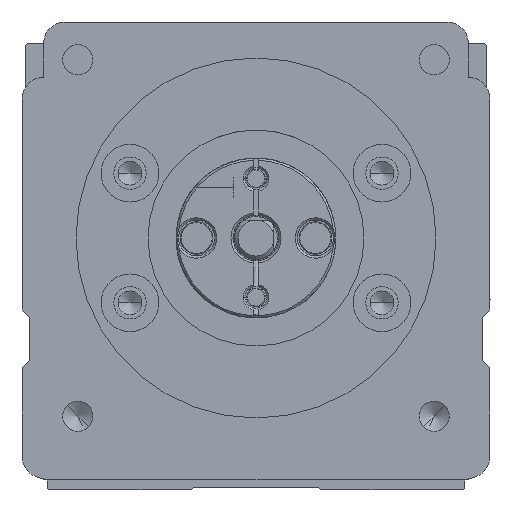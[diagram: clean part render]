
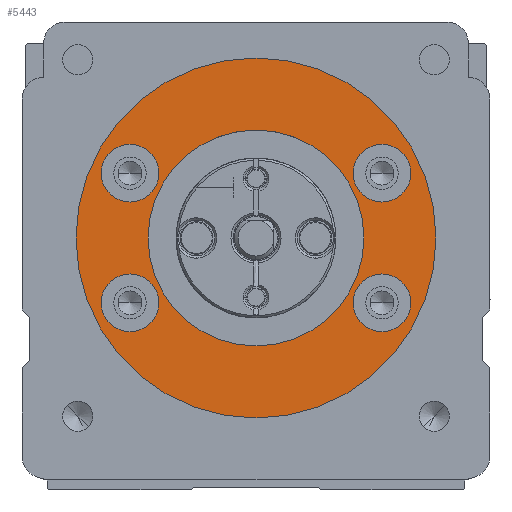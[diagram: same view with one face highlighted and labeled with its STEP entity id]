
A CAD part, front view. The second image highlights one B-rep face of the part: STEP entity #5443.
In plain terms, the highlighted planar face has unit normal (0, -1, 0).
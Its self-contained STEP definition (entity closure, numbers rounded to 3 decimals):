
#5443=ADVANCED_FACE('',(#11641,#11642,#11643,#11644,#11645,#11646),#11647,.F.);
#11641=FACE_BOUND('',#19823,.T.);
#11642=FACE_BOUND('',#19824,.T.);
#11643=FACE_BOUND('',#19825,.T.);
#11644=FACE_BOUND('',#19826,.T.);
#11645=FACE_BOUND('',#19827,.T.);
#11646=FACE_OUTER_BOUND('',#19828,.T.);
#11647=PLANE('',#19829);
#19823=EDGE_LOOP('',(#34621,#34622));
#19824=EDGE_LOOP('',(#34623,#34624));
#19825=EDGE_LOOP('',(#34625,#34626));
#19826=EDGE_LOOP('',(#34627,#34628));
#19827=EDGE_LOOP('',(#34629,#34630));
#19828=EDGE_LOOP('',(#34631,#34632));
#19829=AXIS2_PLACEMENT_3D('',#34633,#34634,#34635);
#34621=ORIENTED_EDGE('',*,*,#49627,.T.);
#34622=ORIENTED_EDGE('',*,*,#49628,.T.);
#34623=ORIENTED_EDGE('',*,*,#49629,.T.);
#34624=ORIENTED_EDGE('',*,*,#49630,.T.);
#34625=ORIENTED_EDGE('',*,*,#49631,.T.);
#34626=ORIENTED_EDGE('',*,*,#49632,.T.);
#34627=ORIENTED_EDGE('',*,*,#49633,.T.);
#34628=ORIENTED_EDGE('',*,*,#49634,.T.);
#34629=ORIENTED_EDGE('',*,*,#49635,.T.);
#34630=ORIENTED_EDGE('',*,*,#49636,.T.);
#34631=ORIENTED_EDGE('',*,*,#49637,.T.);
#34632=ORIENTED_EDGE('',*,*,#49638,.T.);
#34633=CARTESIAN_POINT('',(300.,165.0,0.));
#34634=DIRECTION('',(0.,1.0,0.));
#34635=DIRECTION('',(1.0,0.,0.));
#49627=EDGE_CURVE('',#60842,#60843,#60844,.T.);
#49628=EDGE_CURVE('',#60843,#60842,#60845,.T.);
#49629=EDGE_CURVE('',#60846,#60847,#60848,.T.);
#49630=EDGE_CURVE('',#60847,#60846,#60849,.T.);
#49631=EDGE_CURVE('',#60850,#60851,#60852,.T.);
#49632=EDGE_CURVE('',#60851,#60850,#60853,.T.);
#49633=EDGE_CURVE('',#60854,#60855,#60856,.T.);
#49634=EDGE_CURVE('',#60855,#60854,#60857,.T.);
#49635=EDGE_CURVE('',#60858,#60859,#60860,.T.);
#49636=EDGE_CURVE('',#60859,#60858,#60861,.T.);
#49637=EDGE_CURVE('',#60862,#60863,#60864,.T.);
#49638=EDGE_CURVE('',#60863,#60862,#60865,.T.);
#60842=VERTEX_POINT('',#76627);
#60843=VERTEX_POINT('',#76628);
#60844=CIRCLE('',#76629,4.0);
#60845=CIRCLE('',#76630,4.0);
#60846=VERTEX_POINT('',#76631);
#60847=VERTEX_POINT('',#76632);
#60848=CIRCLE('',#76633,4.0);
#60849=CIRCLE('',#76634,4.0);
#60850=VERTEX_POINT('',#76635);
#60851=VERTEX_POINT('',#76636);
#60852=CIRCLE('',#76637,4.0);
#60853=CIRCLE('',#76638,4.0);
#60854=VERTEX_POINT('',#76639);
#60855=VERTEX_POINT('',#76640);
#60856=CIRCLE('',#76641,4.0);
#60857=CIRCLE('',#76642,4.0);
#60858=VERTEX_POINT('',#76643);
#60859=VERTEX_POINT('',#76644);
#60860=CIRCLE('',#76645,15.0);
#60861=CIRCLE('',#76646,15.0);
#60862=VERTEX_POINT('',#76647);
#60863=VERTEX_POINT('',#76648);
#60864=CIRCLE('',#76649,25.0);
#60865=CIRCLE('',#76650,25.0);
#76627=CARTESIAN_POINT('',(286.5,165.0,-9.));
#76628=CARTESIAN_POINT('',(278.5,165.0,-9.));
#76629=AXIS2_PLACEMENT_3D('',#88500,#88501,#88502);
#76630=AXIS2_PLACEMENT_3D('',#88503,#88504,#88505);
#76631=CARTESIAN_POINT('',(321.5,165.0,-9.));
#76632=CARTESIAN_POINT('',(313.5,165.0,-9.));
#76633=AXIS2_PLACEMENT_3D('',#88506,#88507,#88508);
#76634=AXIS2_PLACEMENT_3D('',#88509,#88510,#88511);
#76635=CARTESIAN_POINT('',(286.5,165.0,9.));
#76636=CARTESIAN_POINT('',(278.5,165.0,9.));
#76637=AXIS2_PLACEMENT_3D('',#88512,#88513,#88514);
#76638=AXIS2_PLACEMENT_3D('',#88515,#88516,#88517);
#76639=CARTESIAN_POINT('',(321.5,165.0,9.));
#76640=CARTESIAN_POINT('',(313.5,165.0,9.));
#76641=AXIS2_PLACEMENT_3D('',#88518,#88519,#88520);
#76642=AXIS2_PLACEMENT_3D('',#88521,#88522,#88523);
#76643=CARTESIAN_POINT('',(285.,165.0,0.));
#76644=CARTESIAN_POINT('',(315.,165.0,0.));
#76645=AXIS2_PLACEMENT_3D('',#88524,#88525,#88526);
#76646=AXIS2_PLACEMENT_3D('',#88527,#88528,#88529);
#76647=CARTESIAN_POINT('',(325.,165.0,0.));
#76648=CARTESIAN_POINT('',(275.,165.0,0.));
#76649=AXIS2_PLACEMENT_3D('',#88530,#88531,#88532);
#76650=AXIS2_PLACEMENT_3D('',#88533,#88534,#88535);
#88500=CARTESIAN_POINT('',(282.5,165.0,-9.));
#88501=DIRECTION('',(0.,1.0,0.));
#88502=DIRECTION('',(-1.0,0.,0.));
#88503=CARTESIAN_POINT('',(282.5,165.0,-9.));
#88504=DIRECTION('',(0.,1.0,0.));
#88505=DIRECTION('',(-1.0,0.,0.));
#88506=CARTESIAN_POINT('',(317.5,165.0,-9.));
#88507=DIRECTION('',(0.,1.0,0.));
#88508=DIRECTION('',(-1.0,0.,0.));
#88509=CARTESIAN_POINT('',(317.5,165.0,-9.));
#88510=DIRECTION('',(0.,1.0,0.));
#88511=DIRECTION('',(-1.0,0.,0.));
#88512=CARTESIAN_POINT('',(282.5,165.0,9.));
#88513=DIRECTION('',(0.,1.0,0.));
#88514=DIRECTION('',(-1.0,0.,0.));
#88515=CARTESIAN_POINT('',(282.5,165.0,9.));
#88516=DIRECTION('',(0.,1.0,0.));
#88517=DIRECTION('',(-1.0,0.,0.));
#88518=CARTESIAN_POINT('',(317.5,165.0,9.));
#88519=DIRECTION('',(0.,1.0,0.));
#88520=DIRECTION('',(-1.0,0.,0.));
#88521=CARTESIAN_POINT('',(317.5,165.0,9.));
#88522=DIRECTION('',(0.,1.0,0.));
#88523=DIRECTION('',(-1.0,0.,0.));
#88524=CARTESIAN_POINT('',(300.,165.0,0.));
#88525=DIRECTION('',(0.,1.0,0.));
#88526=DIRECTION('',(1.0,0.,0.));
#88527=CARTESIAN_POINT('',(300.,165.0,0.));
#88528=DIRECTION('',(0.,1.0,0.));
#88529=DIRECTION('',(1.0,0.,0.));
#88530=CARTESIAN_POINT('',(300.,165.0,0.));
#88531=DIRECTION('',(0.,-1.0,0.));
#88532=DIRECTION('',(1.0,0.,0.));
#88533=CARTESIAN_POINT('',(300.,165.0,0.));
#88534=DIRECTION('',(0.,-1.0,0.));
#88535=DIRECTION('',(1.0,0.,0.));
